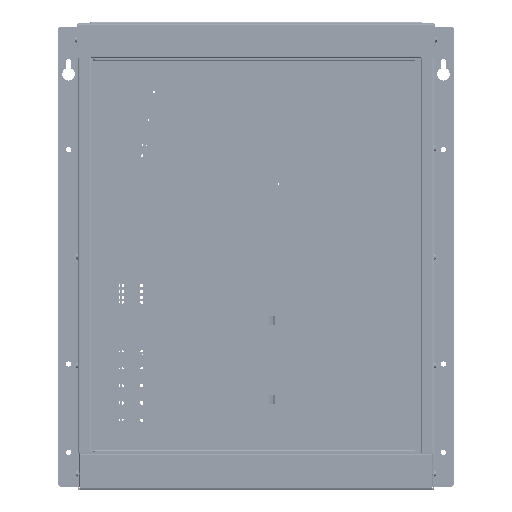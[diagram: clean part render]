
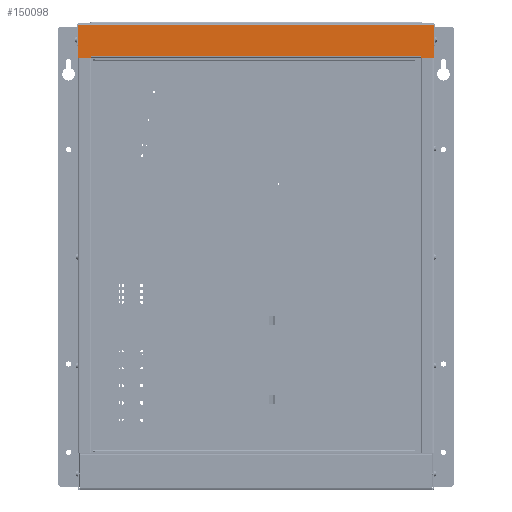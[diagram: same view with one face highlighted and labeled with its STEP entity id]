
A CAD part, top view. The second image highlights one B-rep face of the part: STEP entity #150098.
In plain terms, the highlighted planar face has unit normal (0, 0, 1).
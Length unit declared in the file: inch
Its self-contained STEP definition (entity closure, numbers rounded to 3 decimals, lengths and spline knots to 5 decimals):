
#71630 = LINE ( 'NONE', #94418, #71636 ) ;
#71633 = LINE ( 'NONE', #94439, #71646 ) ;
#71636 = VECTOR ( 'NONE', #94447, 39.37008 ) ;
#71639 = VECTOR ( 'NONE', #94550, 39.37008 ) ;
#71643 = LINE ( 'NONE', #94473, #71658 ) ;
#71646 = VECTOR ( 'NONE', #94482, 39.37008 ) ;
#71658 = VECTOR ( 'NONE', #94514, 39.37008 ) ;
#71661 = LINE ( 'NONE', #94534, #71639 ) ;
#71670 = LINE ( 'NONE', #94554, #71678 ) ;
#71678 = VECTOR ( 'NONE', #94582, 39.37008 ) ;
#71681 = LINE ( 'NONE', #94586, #71689 ) ;
#71689 = VECTOR ( 'NONE', #94614, 39.37008 ) ;
#71699 = LINE ( 'NONE', #94636, #71703 ) ;
#71703 = VECTOR ( 'NONE', #94618, 39.37008 ) ;
#71704 = LINE ( 'NONE', #94656, #71710 ) ;
#71710 = VECTOR ( 'NONE', #94686, 39.37008 ) ;
#71713 = LINE ( 'NONE', #94691, #71721 ) ;
#71719 = LINE ( 'NONE', #94712, #71731 ) ;
#71721 = VECTOR ( 'NONE', #94720, 39.37008 ) ;
#71724 = VECTOR ( 'NONE', #94781, 39.37008 ) ;
#71728 = LINE ( 'NONE', #94767, #71724 ) ;
#71731 = VECTOR ( 'NONE', #94750, 39.37008 ) ;
#71742 = LINE ( 'NONE', #94774, #71752 ) ;
#71750 = LINE ( 'NONE', #94800, #71763 ) ;
#71752 = VECTOR ( 'NONE', #94806, 39.37008 ) ;
#71763 = VECTOR ( 'NONE', #94833, 39.37008 ) ;
#71772 = LINE ( 'NONE', #94855, #71785 ) ;
#71774 = LINE ( 'NONE', #94851, #71776 ) ;
#71776 = VECTOR ( 'NONE', #94836, 39.37008 ) ;
#71782 = LINE ( 'NONE', #94881, #71794 ) ;
#71785 = VECTOR ( 'NONE', #94889, 39.37008 ) ;
#71794 = VECTOR ( 'NONE', #94915, 39.37008 ) ;
#94418 = CARTESIAN_POINT ( 'NONE',  ( -9.846, -1.93, 7.9675 ) ) ;
#94439 = CARTESIAN_POINT ( 'NONE',  ( -9.8459, 0., 7.9675 ) ) ;
#94447 = DIRECTION ( 'NONE',  ( -1., 0., 0. ) ) ;
#94473 = CARTESIAN_POINT ( 'NONE',  ( -10.6, -1.8813, 7.9675 ) ) ;
#94482 = DIRECTION ( 'NONE',  ( 0., 1., 0. ) ) ;
#94514 = DIRECTION ( 'NONE',  ( 1., 0., 0. ) ) ;
#94534 = CARTESIAN_POINT ( 'NONE',  ( -9.816, 0., 7.9675 ) ) ;
#94550 = DIRECTION ( 'NONE',  ( 0., -1., 0. ) ) ;
#94554 = CARTESIAN_POINT ( 'NONE',  ( -9.816, -1.9112, 7.9675 ) ) ;
#94582 = DIRECTION ( 'NONE',  ( 1., 0., 0. ) ) ;
#94586 = CARTESIAN_POINT ( 'NONE',  ( 9.8157, 0., 7.9675 ) ) ;
#94614 = DIRECTION ( 'NONE',  ( 0., 1., 0. ) ) ;
#94618 = DIRECTION ( 'NONE',  ( 1., 0., 0. ) ) ;
#94636 = CARTESIAN_POINT ( 'NONE',  ( -10.6, -1.8813, 7.9675 ) ) ;
#94656 = CARTESIAN_POINT ( 'NONE',  ( 9.8456, 0., 7.9675 ) ) ;
#94686 = DIRECTION ( 'NONE',  ( 0., -1., 0. ) ) ;
#94691 = CARTESIAN_POINT ( 'NONE',  ( 9.8457, -1.93, 7.9675 ) ) ;
#94712 = CARTESIAN_POINT ( 'NONE',  ( 9.8457, -2., 7.9675 ) ) ;
#94720 = DIRECTION ( 'NONE',  ( -1., 0., 0. ) ) ;
#94750 = DIRECTION ( 'NONE',  ( 0., 1., 0. ) ) ;
#94767 = CARTESIAN_POINT ( 'NONE',  ( -10.6, -2., 7.9675 ) ) ;
#94774 = CARTESIAN_POINT ( 'NONE',  ( 10.6, -2., 7.9675 ) ) ;
#94781 = DIRECTION ( 'NONE',  ( -1., 0., 0. ) ) ;
#94800 = CARTESIAN_POINT ( 'NONE',  ( -10.6, -0.029, 7.9675 ) ) ;
#94806 = DIRECTION ( 'NONE',  ( 0., -1., 0. ) ) ;
#94833 = DIRECTION ( 'NONE',  ( -1., 0., 0. ) ) ;
#94836 = DIRECTION ( 'NONE',  ( 0., 1., 0. ) ) ;
#94851 = CARTESIAN_POINT ( 'NONE',  ( -10.6, 0., 7.9675 ) ) ;
#94855 = CARTESIAN_POINT ( 'NONE',  ( -10.6, -2., 7.9675 ) ) ;
#94881 = CARTESIAN_POINT ( 'NONE',  ( -9.846, -2., 7.9675 ) ) ;
#94889 = DIRECTION ( 'NONE',  ( -1., 0., 0. ) ) ;
#94915 = DIRECTION ( 'NONE',  ( 0., -1., 0. ) ) ;
#141983 = DIRECTION ( 'NONE',  ( 0., 0., 1. ) ) ;
#142024 = CARTESIAN_POINT ( 'NONE',  ( -10.6, 0., 7.9675 ) ) ;
#142029 = PLANE ( 'NONE',  #180102 ) ;
#142032 = DIRECTION ( 'NONE',  ( 0., -1., 0. ) ) ;
#150098 = ADVANCED_FACE ( 'NONE', ( #177296 ), #142029, .T. ) ;
#152534 = VERTEX_POINT ( 'NONE', #328159 ) ;
#152546 = VERTEX_POINT ( 'NONE', #328217 ) ;
#152676 = VERTEX_POINT ( 'NONE', #329077 ) ;
#153228 = VERTEX_POINT ( 'NONE', #331082 ) ;
#153923 = VERTEX_POINT ( 'NONE', #341321 ) ;
#154194 = VERTEX_POINT ( 'NONE', #342319 ) ;
#154811 = VERTEX_POINT ( 'NONE', #344318 ) ;
#154842 = VERTEX_POINT ( 'NONE', #344435 ) ;
#154851 = VERTEX_POINT ( 'NONE', #344482 ) ;
#155236 = VERTEX_POINT ( 'NONE', #357811 ) ;
#155402 = VERTEX_POINT ( 'NONE', #358595 ) ;
#155812 = VERTEX_POINT ( 'NONE', #360773 ) ;
#155816 = VERTEX_POINT ( 'NONE', #360792 ) ;
#156360 = VERTEX_POINT ( 'NONE', #362706 ) ;
#157356 = VERTEX_POINT ( 'NONE', #375390 ) ;
#157604 = VERTEX_POINT ( 'NONE', #376439 ) ;
#177296 = FACE_OUTER_BOUND ( 'NONE', #328125, .T. ) ;
#180102 = AXIS2_PLACEMENT_3D ( 'NONE', #142024, #141983, #142032 ) ;
#202664 = EDGE_CURVE ( 'NONE', #154194, #155816, #71630, .T. ) ;
#202676 = EDGE_CURVE ( 'NONE', #154194, #152534, #71633, .T. ) ;
#202686 = EDGE_CURVE ( 'NONE', #152534, #155236, #71643, .T. ) ;
#202697 = EDGE_CURVE ( 'NONE', #155236, #155812, #71661, .T. ) ;
#202708 = EDGE_CURVE ( 'NONE', #155812, #155402, #71670, .T. ) ;
#202718 = EDGE_CURVE ( 'NONE', #155402, #152676, #71681, .T. ) ;
#202730 = EDGE_CURVE ( 'NONE', #152676, #153923, #71699, .T. ) ;
#202742 = EDGE_CURVE ( 'NONE', #153923, #157356, #71704, .T. ) ;
#202750 = EDGE_CURVE ( 'NONE', #153228, #157356, #71713, .T. ) ;
#202760 = EDGE_CURVE ( 'NONE', #157604, #153228, #71719, .T. ) ;
#202774 = EDGE_CURVE ( 'NONE', #152546, #157604, #71728, .T. ) ;
#202785 = EDGE_CURVE ( 'NONE', #156360, #152546, #71742, .T. ) ;
#202795 = EDGE_CURVE ( 'NONE', #156360, #154811, #71750, .T. ) ;
#202808 = EDGE_CURVE ( 'NONE', #154851, #154811, #71774, .T. ) ;
#202818 = EDGE_CURVE ( 'NONE', #154842, #154851, #71772, .T. ) ;
#202829 = EDGE_CURVE ( 'NONE', #155816, #154842, #71782, .T. ) ;
#216253 = ORIENTED_EDGE ( 'NONE', *, *, #202664, .F. ) ;
#216261 = ORIENTED_EDGE ( 'NONE', *, *, #202676, .T. ) ;
#216269 = ORIENTED_EDGE ( 'NONE', *, *, #202686, .T. ) ;
#216276 = ORIENTED_EDGE ( 'NONE', *, *, #202697, .T. ) ;
#216284 = ORIENTED_EDGE ( 'NONE', *, *, #202708, .T. ) ;
#216293 = ORIENTED_EDGE ( 'NONE', *, *, #202718, .T. ) ;
#216301 = ORIENTED_EDGE ( 'NONE', *, *, #202730, .T. ) ;
#216308 = ORIENTED_EDGE ( 'NONE', *, *, #202742, .T. ) ;
#216316 = ORIENTED_EDGE ( 'NONE', *, *, #202750, .F. ) ;
#216324 = ORIENTED_EDGE ( 'NONE', *, *, #202760, .F. ) ;
#216332 = ORIENTED_EDGE ( 'NONE', *, *, #202774, .F. ) ;
#216341 = ORIENTED_EDGE ( 'NONE', *, *, #202785, .F. ) ;
#216348 = ORIENTED_EDGE ( 'NONE', *, *, #202795, .T. ) ;
#216356 = ORIENTED_EDGE ( 'NONE', *, *, #202808, .F. ) ;
#216364 = ORIENTED_EDGE ( 'NONE', *, *, #202818, .F. ) ;
#216372 = ORIENTED_EDGE ( 'NONE', *, *, #202829, .F. ) ;
#328125 = EDGE_LOOP ( 'NONE', ( #216253, #216261, #216269, #216276, #216284, #216293, #216301, #216308, #216316, #216324, #216332, #216341, #216348, #216356, #216364, #216372 ) ) ;
#328159 = CARTESIAN_POINT ( 'NONE',  ( -9.8459, -1.8813, 7.9675 ) ) ;
#328217 = CARTESIAN_POINT ( 'NONE',  ( 10.6, -2., 7.9675 ) ) ;
#329077 = CARTESIAN_POINT ( 'NONE',  ( 9.8157, -1.8813, 7.9675 ) ) ;
#331082 = CARTESIAN_POINT ( 'NONE',  ( 9.8457, -1.93, 7.9675 ) ) ;
#341321 = CARTESIAN_POINT ( 'NONE',  ( 9.8456, -1.8813, 7.9675 ) ) ;
#342319 = CARTESIAN_POINT ( 'NONE',  ( -9.8459, -1.93, 7.9675 ) ) ;
#344318 = CARTESIAN_POINT ( 'NONE',  ( -10.6, -0.029, 7.9675 ) ) ;
#344435 = CARTESIAN_POINT ( 'NONE',  ( -9.846, -2., 7.9675 ) ) ;
#344482 = CARTESIAN_POINT ( 'NONE',  ( -10.6, -2., 7.9675 ) ) ;
#357811 = CARTESIAN_POINT ( 'NONE',  ( -9.816, -1.8813, 7.9675 ) ) ;
#358595 = CARTESIAN_POINT ( 'NONE',  ( 9.8157, -1.9112, 7.9675 ) ) ;
#360773 = CARTESIAN_POINT ( 'NONE',  ( -9.816, -1.9112, 7.9675 ) ) ;
#360792 = CARTESIAN_POINT ( 'NONE',  ( -9.846, -1.93, 7.9675 ) ) ;
#362706 = CARTESIAN_POINT ( 'NONE',  ( 10.6, -0.029, 7.9675 ) ) ;
#375390 = CARTESIAN_POINT ( 'NONE',  ( 9.8456, -1.93, 7.9675 ) ) ;
#376439 = CARTESIAN_POINT ( 'NONE',  ( 9.8457, -2., 7.9675 ) ) ;
